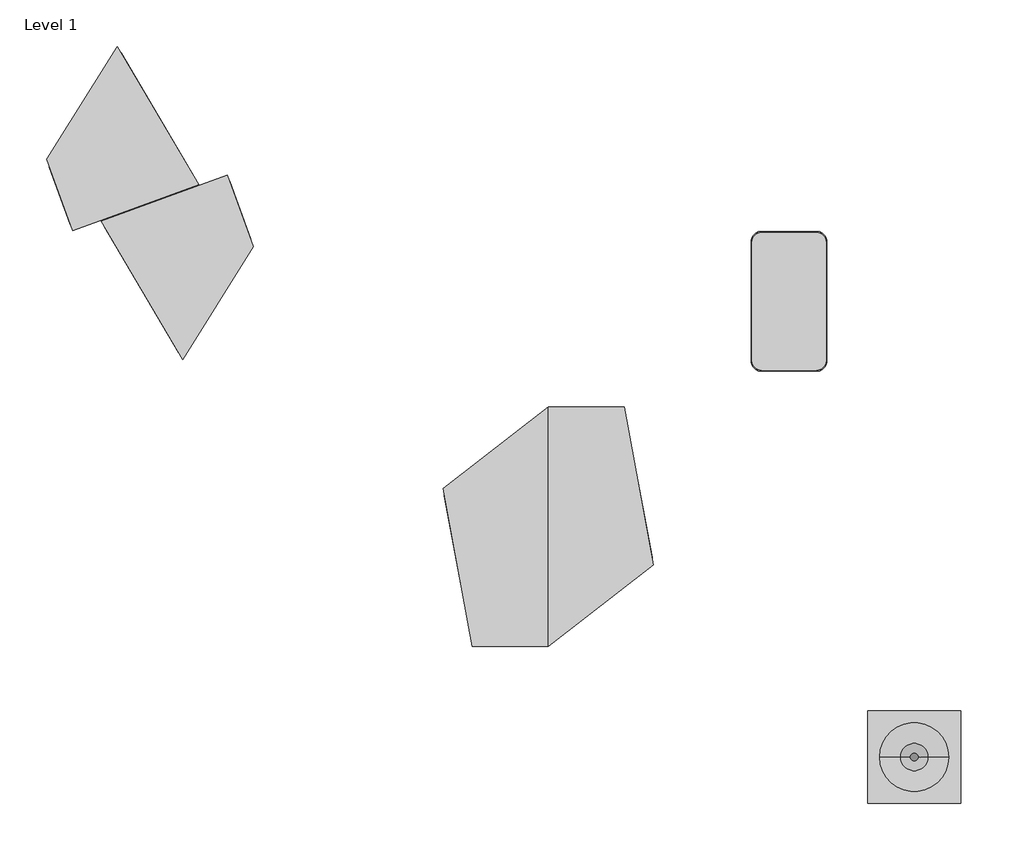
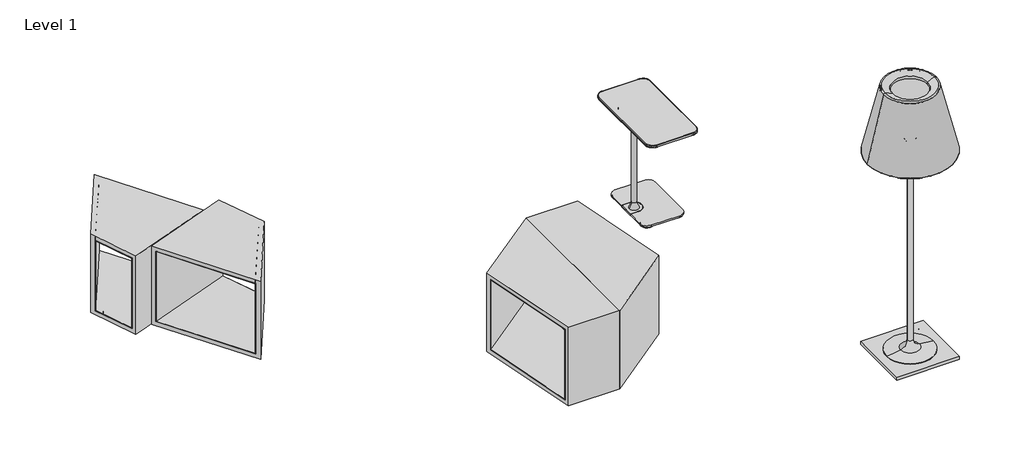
# One storey, incomplete: 6 furniture elements.
"""IFC4 building model written with IfcOpenShell, lengths in millimetres."""

from ifc_helpers import new_model, si_unit, origin, place, context, project, spatial, transform, mapped, element, save
from components import furniture_d2e51079, furniture_22h_ecc0bf9d, furniture_22h_b340dc4a, lighting_54dd1ebd

model = new_model("IFC4")

# Units and contexts
model_context = context("Model", 3, world=origin())
ifc_project = project(units=[si_unit("LENGTHUNIT", "METRE", prefix="MILLI")], contexts=[model_context])

# Site, building, storey
site = spatial("IfcSite", under=ifc_project)
building = spatial("IfcBuilding", under=site)
storey = spatial("IfcBuildingStorey", under=building, Name="Level 1", Elevation=0.0)

# Furniture
placement = place(None, origin())
furniture_shape = furniture_d2e51079(model_context)
element("IfcFurniture", 1, ObjectType="Steelcase Coalesse - Lagunitas - Table - Personal (3) : 13D x 24W", at=placement, inside=storey, context=model_context, shape_type="MappedRepresentation", body=[
    mapped(furniture_shape, transform((-36517.5011997, -532643.8730647, 0.0), x_axis=(-9.770970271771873e-07, 0.9999999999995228, 0.0), y_axis=(-0.9999999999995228, -9.770970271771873e-07, 0.0), z_axis=(0.0, 0.0, 1.0))),
])
furniture_22h_shape = furniture_22h_ecc0bf9d(model_context)
element("IfcFurniture", 2, ObjectType="Steelcase Coalesse - Sebastopol - Table - Large : 22H", at=placement, inside=storey, context=model_context, shape_type="MappedRepresentation", body=[
    mapped(furniture_22h_shape, transform((-37564.4665475, -533103.6293506, 0.0), x_axis=(0.0, 1.0, 0.0), y_axis=(-1.0, 0.0, 0.0), z_axis=(0.0, 0.0, 1.0))),
])
element("IfcFurniture", 3, ObjectType="Steelcase Coalesse - Sebastopol - Table - Large : 22H", at=placement, inside=storey, context=model_context, shape_type="MappedRepresentation", body=[
    mapped(furniture_22h_shape, transform((-37564.4665475, -534145.1956096, 0.0), x_axis=(0.0, -1.0, 0.0), y_axis=(1.0, 0.0, 0.0), z_axis=(0.0, 0.0, 1.0))),
])
furniture_22h_2_shape = furniture_22h_b340dc4a(model_context)
element("IfcFurniture", 4, ObjectType="Steelcase Coalesse - Sebastopol - Table - Small (1) : 22H", at=placement, inside=storey, context=model_context, shape_type="MappedRepresentation", body=[
    mapped(furniture_22h_2_shape, transform((-39084.516451, -532135.9335748, 0.0), x_axis=(0.3420200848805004, -0.9396926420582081, 0.0), y_axis=(0.9396926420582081, 0.3420200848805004, 0.0), z_axis=(0.0, 0.0, 1.0))),
])
element("IfcFurniture", 5, ObjectType="Steelcase Coalesse - Sebastopol - Table - Small (1) : 22H", at=placement, inside=storey, context=model_context, shape_type="MappedRepresentation", body=[
    mapped(furniture_22h_2_shape, transform((-39508.9630046, -532294.5425946, 0.0), x_axis=(-0.3420202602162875, 0.9396925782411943, 0.0), y_axis=(-0.9396925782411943, -0.3420202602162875, 0.0), z_axis=(0.0, 0.0, 1.0))),
])
lighting_shape = lighting_54dd1ebd(model_context)
element("IfcFurniture", 6, ObjectType="Flos - Ktribe F3 (1) : Lighting", at=placement, inside=storey, context=model_context, shape_type="MappedRepresentation", body=[
    mapped(lighting_shape, transform((-35611.7690852, -534972.2922343, 0.0), x_axis=(1.0, 0.0, 0.0), y_axis=(0.0, 1.0, 0.0), z_axis=(0.0, 0.0, 1.0))),
])

save(model, "model.ifc")
